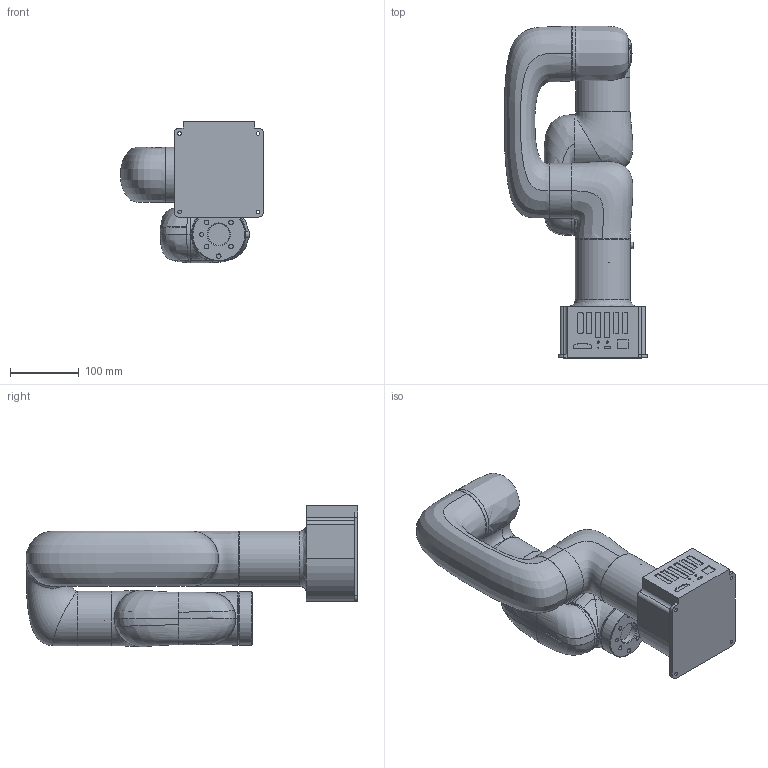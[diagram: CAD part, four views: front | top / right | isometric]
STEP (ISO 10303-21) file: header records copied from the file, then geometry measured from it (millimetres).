
FILE_DESCRIPTION (( 'STEP AP203' ), '1' );
FILE_NAME ('lite6.STEP', '2023-02-04T06:27:14', ( '' ), ( '' ), 'SwSTEP 2.0', 'SolidWorks 2016', '' );
FILE_SCHEMA (( 'CONFIG_CONTROL_DESIGN' ));
Length unit declared in the file: millimetre
Products named in the file (9): JOINT_I_1_1; lite6; JOINT_II_1; LOGO_RUBBER_CAP_1__1_1; JOINT_IV_1_1; JOINT_VI_1_1; HEADTOOL_1; JOINT_V_1_1_ASM; JOINT_III_1
Assembly tree (8 placements, depth 2):
  lite6
    JOINT_III_1
    HEADTOOL_1
    JOINT_VI_1_1
    JOINT_II_1
    JOINT_IV_1_1
    LOGO_RUBBER_CAP_1__1_1
    JOINT_I_1_1
    JOINT_V_1_1_ASM
Bounding box: 208.05 x 483.3 x 206.32 mm (x, y, z)
Volume: 5955021.9 mm3; surface area: 501766.9 mm2
Topology: 10 solids, 34 shells, 632 faces, 1603 edges, 1061 vertices
Faces by surface type: plane 268, cylinder 199, bspline 134, cone 30, torus 1
Full cylindrical faces by diameter (mm): 0.8 x3, 1 x8, 1.1 x3, 1.2 x1, 2.5 x4, 3.2 x2, 5.2 x4, 6 x1, 6.5 x6, 8 x1, 9.5 x1, 31.5 x1, 32 x1, 72 x1, 77.43 x1, 77.5 x1, 79 x1, 80 x2, 82.649 x2
Entity records: 50008 total; most frequent: CARTESIAN_POINT 35713, ORIENTED_EDGE 3022, DIRECTION 2132, EDGE_CURVE 1511, VERTEX_POINT 1047, AXIS2_PLACEMENT_3D 777, EDGE_LOOP 746, FACE_OUTER_BOUND 681
